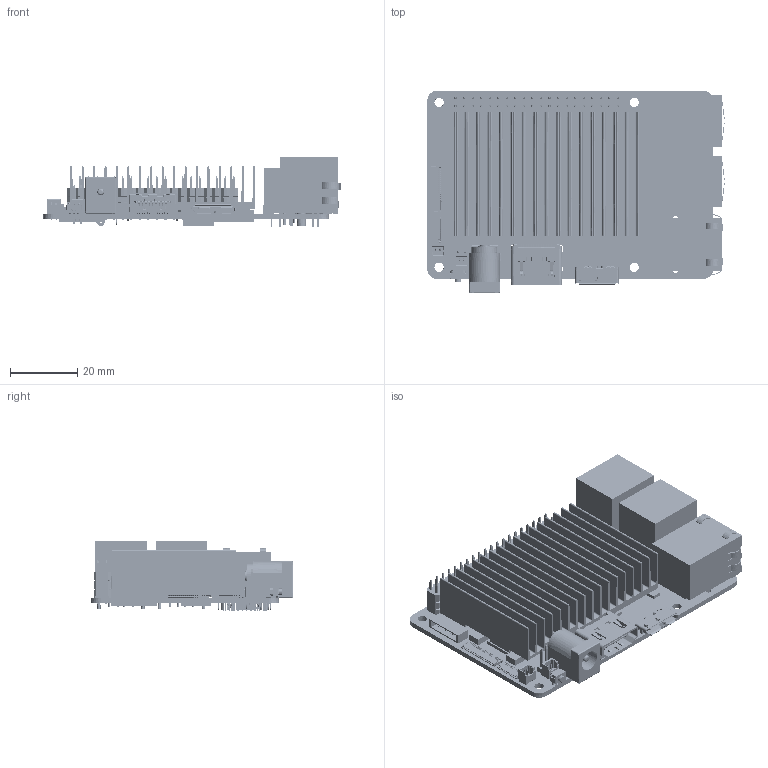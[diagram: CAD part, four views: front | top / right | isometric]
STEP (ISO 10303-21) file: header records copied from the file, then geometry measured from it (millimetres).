
FILE_DESCRIPTION((''),'2;1');
FILE_NAME('PCBA-85-56_ASM','2017-06-29T',('EmmaHsu'),(''),'PRO/ENGINEER BY PARAMETRIC TECHNOLOGY CORPORATION, 2016010','PRO/ENGINEER BY PARAMETRIC TECHNOLOGY CORPORATION, 2016010','');
FILE_SCHEMA(('AUTOMOTIVE_DESIGN { 1 0 10303 214 1 1 1 1 }'));
Products named in the file (22): PCB-85-56; 1654401932; PIN-HEADER-DUAL-254-040; 1654801010; 1654808309; RJ45-P03-1AK9-S-TECH; 1655910130; CPU; DC-POWER-JACK-TK18001-TOUKE; 5022502191; 5022504191; 1601000990; 530470210; PIN-HEADER-SINGLE-2-02P; 1RS; FU49; A885; 1RS-Y58; MEMORY; MEMORY-1; UP-H13_2; PCBA-85-56_ASM
Assembly tree (30 placements, depth 2):
  PCBA-85-56_ASM
    PCB-85-56
    1654401932
    PIN-HEADER-DUAL-254-040
    1654801010
    1654808309  x2
    RJ45-P03-1AK9-S-TECH
    1655910130
    CPU
    DC-POWER-JACK-TK18001-TOUKE
    5022502191
    5022504191
    1601000990
    530470210  x2
    PIN-HEADER-SINGLE-2-02P
    1RS  x5
    FU49  x2
    A885
    1RS-Y58
    MEMORY  x2
    MEMORY-1  x2
    UP-H13_2
Bounding box: 88.41 x 60.25 x 20.69 mm (x, y, z)
Surface area: 45999.3 mm2 (no closed solid volume)
Topology: 0 solids, 0 shells, 11976 faces, 71237 edges, 71211 vertices
Faces by surface type: bspline 11950, sphere 16, torus 10
Entity records: 1066415 total; most frequent: CARTESIAN_POINT 237276, DIRECTION 105060, TRIMMED_CURVE 100291, VECTOR 96254, LINE 96254, COMPOSITE_CURVE_SEGMENT 69905, DEFINITIONAL_REPRESENTATION 68925, PCURVE 68925
